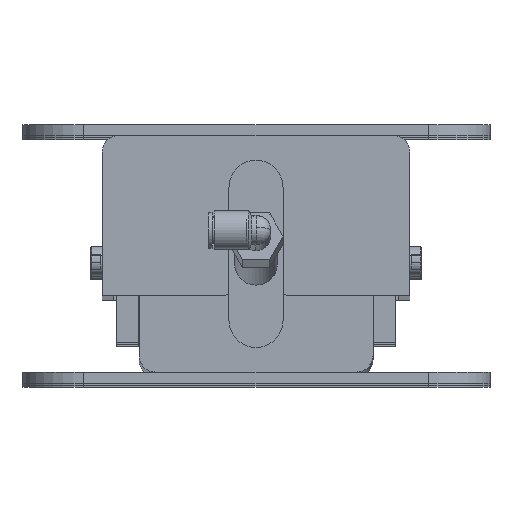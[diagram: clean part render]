
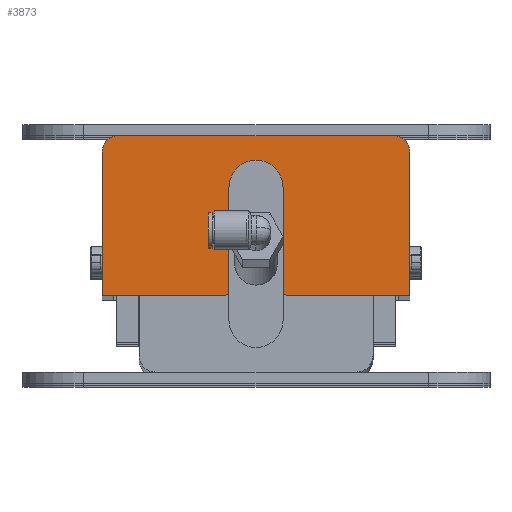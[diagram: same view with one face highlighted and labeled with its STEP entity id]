
A CAD part, top view. The second image highlights one B-rep face of the part: STEP entity #3873.
In plain terms, the highlighted planar face has unit normal (0, 0, 1).
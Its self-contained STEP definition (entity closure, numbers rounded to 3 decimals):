
#146 = EDGE_CURVE ( 'NONE', #7854, #5209, #5205, .T. ) ;
#151 = CARTESIAN_POINT ( 'NONE',  ( 13., -30.5, 1000. ) ) ;
#171 = EDGE_CURVE ( 'NONE', #182, #6961, #8695, .T. ) ;
#182 = VERTEX_POINT ( 'NONE', #2096 ) ;
#239 = DIRECTION ( 'NONE',  ( 0., -1., 0. ) ) ;
#262 = CARTESIAN_POINT ( 'NONE',  ( 62.5, 25.75, 1000. ) ) ;
#341 = LINE ( 'NONE', #4375, #5715 ) ;
#451 = CARTESIAN_POINT ( 'NONE',  ( -55.75, 25.75, 1000. ) ) ;
#454 = FACE_OUTER_BOUND ( 'NONE', #8115, .T. ) ;
#484 = CIRCLE ( 'NONE', #3273, 6.75 ) ;
#513 = CIRCLE ( 'NONE', #1498, 2. ) ;
#639 = CARTESIAN_POINT ( 'NONE',  ( 62.5, 32.5, 1000. ) ) ;
#670 = CARTESIAN_POINT ( 'NONE',  ( 0., 11.5, 1000. ) ) ;
#704 = LINE ( 'NONE', #7675, #4220 ) ;
#740 = CARTESIAN_POINT ( 'NONE',  ( -62.5, -32.5, 1000. ) ) ;
#873 = DIRECTION ( 'NONE',  ( 1., 0., 0. ) ) ;
#947 = AXIS2_PLACEMENT_3D ( 'NONE', #1157, #6065, #1890 ) ;
#1147 = DIRECTION ( 'NONE',  ( 1., 0., 0. ) ) ;
#1157 = CARTESIAN_POINT ( 'NONE',  ( -13., -30.5, 1000. ) ) ;
#1217 = ORIENTED_EDGE ( 'NONE', *, *, #4555, .T. ) ;
#1347 = CARTESIAN_POINT ( 'NONE',  ( 55.75, 32.5, 1000. ) ) ;
#1368 = DIRECTION ( 'NONE',  ( 1., 0., 0. ) ) ;
#1419 = ORIENTED_EDGE ( 'NONE', *, *, #7722, .T. ) ;
#1498 = AXIS2_PLACEMENT_3D ( 'NONE', #151, #5059, #873 ) ;
#1782 = CARTESIAN_POINT ( 'NONE',  ( -11., 11.5, 1000. ) ) ;
#1890 = DIRECTION ( 'NONE',  ( 1., 0., 0. ) ) ;
#1924 = DIRECTION ( 'NONE',  ( 0., 1., 0. ) ) ;
#2015 = CARTESIAN_POINT ( 'NONE',  ( -62.5, 25.75, 1000. ) ) ;
#2096 = CARTESIAN_POINT ( 'NONE',  ( 11., 11.5, 1000. ) ) ;
#2130 = PLANE ( 'NONE',  #8528 ) ;
#2158 = ORIENTED_EDGE ( 'NONE', *, *, #2429, .F. ) ;
#2234 = DIRECTION ( 'NONE',  ( 1., 0., 0. ) ) ;
#2286 = EDGE_CURVE ( 'NONE', #3778, #3911, #7528, .T. ) ;
#2419 = VECTOR ( 'NONE', #239, 1000. ) ;
#2429 = EDGE_CURVE ( 'NONE', #6961, #6890, #4374, .T. ) ;
#2510 = VECTOR ( 'NONE', #8066, 1000. ) ;
#2625 = EDGE_CURVE ( 'NONE', #3911, #4913, #3056, .T. ) ;
#2824 = DIRECTION ( 'NONE',  ( 1., 0., 0. ) ) ;
#2903 = ORIENTED_EDGE ( 'NONE', *, *, #6835, .T. ) ;
#3056 = LINE ( 'NONE', #7820, #8611 ) ;
#3214 = EDGE_CURVE ( 'NONE', #5209, #6215, #4128, .T. ) ;
#3269 = ORIENTED_EDGE ( 'NONE', *, *, #171, .F. ) ;
#3273 = AXIS2_PLACEMENT_3D ( 'NONE', #451, #5348, #1147 ) ;
#3337 = VECTOR ( 'NONE', #4828, 1000. ) ;
#3410 = AXIS2_PLACEMENT_3D ( 'NONE', #670, #5573, #1368 ) ;
#3778 = VERTEX_POINT ( 'NONE', #2015 ) ;
#3818 = ORIENTED_EDGE ( 'NONE', *, *, #2625, .T. ) ;
#3857 = CARTESIAN_POINT ( 'NONE',  ( 55.75, 25.75, 1000. ) ) ;
#3873 = ADVANCED_FACE ( 'NONE', ( #454 ), #2130, .T. ) ;
#3911 = VERTEX_POINT ( 'NONE', #740 ) ;
#4128 = CIRCLE ( 'NONE', #6706, 6.75 ) ;
#4220 = VECTOR ( 'NONE', #4224, 1000. ) ;
#4224 = DIRECTION ( 'NONE',  ( -1., 0., 0. ) ) ;
#4374 = LINE ( 'NONE', #1782, #2510 ) ;
#4375 = CARTESIAN_POINT ( 'NONE',  ( -62.5, -32.5, 1000. ) ) ;
#4397 = CARTESIAN_POINT ( 'NONE',  ( -13., -32.5, 1000. ) ) ;
#4540 = DIRECTION ( 'NONE',  ( 1., 0., 0. ) ) ;
#4555 = EDGE_CURVE ( 'NONE', #4913, #6890, #6472, .T. ) ;
#4577 = ORIENTED_EDGE ( 'NONE', *, *, #146, .T. ) ;
#4623 = ORIENTED_EDGE ( 'NONE', *, *, #9003, .T. ) ;
#4649 = ORIENTED_EDGE ( 'NONE', *, *, #2286, .T. ) ;
#4656 = DIRECTION ( 'NONE',  ( 1., 0., 0. ) ) ;
#4828 = DIRECTION ( 'NONE',  ( 0., 1., 0. ) ) ;
#4913 = VERTEX_POINT ( 'NONE', #4397 ) ;
#5059 = DIRECTION ( 'NONE',  ( 0., 0., 1. ) ) ;
#5205 = LINE ( 'NONE', #639, #3337 ) ;
#5209 = VERTEX_POINT ( 'NONE', #262 ) ;
#5348 = DIRECTION ( 'NONE',  ( 0., 0., 1. ) ) ;
#5486 = VECTOR ( 'NONE', #1924, 1000. ) ;
#5551 = CARTESIAN_POINT ( 'NONE',  ( -11., 11.5, 1000. ) ) ;
#5573 = DIRECTION ( 'NONE',  ( 0., 0., 1. ) ) ;
#5715 = VECTOR ( 'NONE', #4656, 1000. ) ;
#5773 = CARTESIAN_POINT ( 'NONE',  ( 11., -30.5, 1000. ) ) ;
#6005 = ORIENTED_EDGE ( 'NONE', *, *, #9048, .F. ) ;
#6065 = DIRECTION ( 'NONE',  ( 0., 0., 1. ) ) ;
#6090 = ORIENTED_EDGE ( 'NONE', *, *, #7918, .T. ) ;
#6215 = VERTEX_POINT ( 'NONE', #1347 ) ;
#6472 = CIRCLE ( 'NONE', #947, 2. ) ;
#6693 = CARTESIAN_POINT ( 'NONE',  ( -55.75, 32.5, 1000. ) ) ;
#6706 = AXIS2_PLACEMENT_3D ( 'NONE', #3857, #8724, #4540 ) ;
#6835 = EDGE_CURVE ( 'NONE', #6877, #8703, #513, .T. ) ;
#6877 = VERTEX_POINT ( 'NONE', #5773 ) ;
#6890 = VERTEX_POINT ( 'NONE', #7886 ) ;
#6961 = VERTEX_POINT ( 'NONE', #5551 ) ;
#7017 = DIRECTION ( 'NONE',  ( 0., 0., 1. ) ) ;
#7306 = VERTEX_POINT ( 'NONE', #6693 ) ;
#7363 = LINE ( 'NONE', #8181, #5486 ) ;
#7506 = CARTESIAN_POINT ( 'NONE',  ( 13., -32.5, 1000. ) ) ;
#7528 = LINE ( 'NONE', #8605, #2419 ) ;
#7675 = CARTESIAN_POINT ( 'NONE',  ( -62.5, 32.5, 1000. ) ) ;
#7722 = EDGE_CURVE ( 'NONE', #7306, #3778, #484, .T. ) ;
#7820 = CARTESIAN_POINT ( 'NONE',  ( -62.5, -32.5, 1000. ) ) ;
#7854 = VERTEX_POINT ( 'NONE', #8986 ) ;
#7886 = CARTESIAN_POINT ( 'NONE',  ( -11., -30.5, 1000. ) ) ;
#7918 = EDGE_CURVE ( 'NONE', #6215, #7306, #704, .T. ) ;
#8062 = ORIENTED_EDGE ( 'NONE', *, *, #3214, .T. ) ;
#8066 = DIRECTION ( 'NONE',  ( 0., -1., 0. ) ) ;
#8115 = EDGE_LOOP ( 'NONE', ( #6005, #2903, #4623, #4577, #8062, #6090, #1419, #4649, #3818, #1217, #2158, #3269 ) ) ;
#8181 = CARTESIAN_POINT ( 'NONE',  ( 11., -32.5, 1000. ) ) ;
#8376 = CARTESIAN_POINT ( 'NONE',  ( 0., 0., 1000. ) ) ;
#8528 = AXIS2_PLACEMENT_3D ( 'NONE', #8376, #7017, #2824 ) ;
#8605 = CARTESIAN_POINT ( 'NONE',  ( -62.5, 32.5, 1000. ) ) ;
#8611 = VECTOR ( 'NONE', #2234, 1000. ) ;
#8695 = CIRCLE ( 'NONE', #3410, 11. ) ;
#8703 = VERTEX_POINT ( 'NONE', #7506 ) ;
#8724 = DIRECTION ( 'NONE',  ( 0., 0., 1. ) ) ;
#8986 = CARTESIAN_POINT ( 'NONE',  ( 62.5, -32.5, 1000. ) ) ;
#9003 = EDGE_CURVE ( 'NONE', #8703, #7854, #341, .T. ) ;
#9048 = EDGE_CURVE ( 'NONE', #6877, #182, #7363, .T. ) ;
